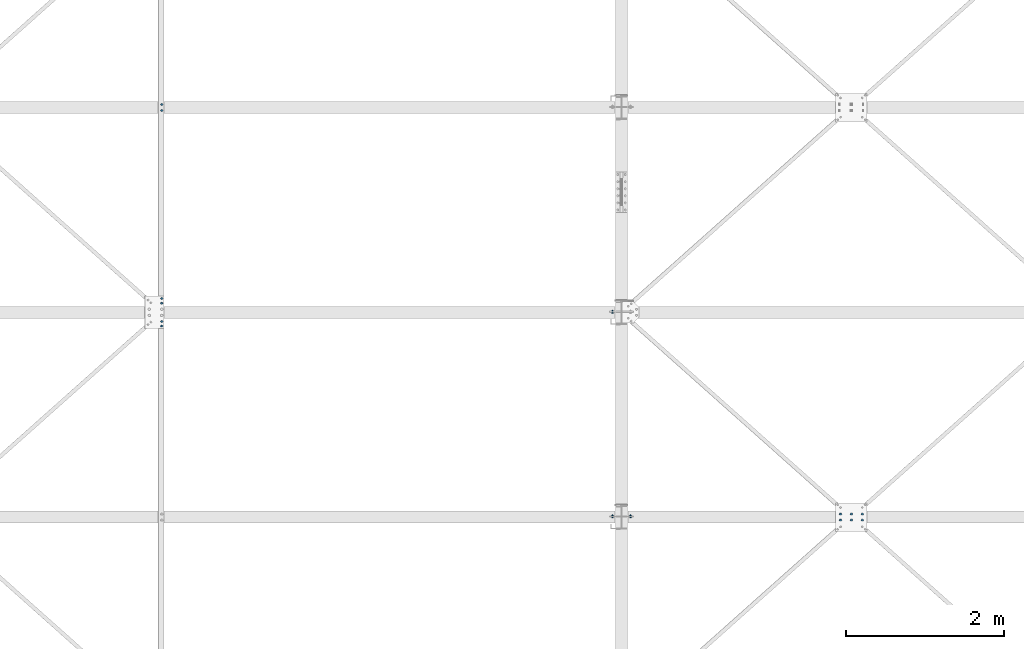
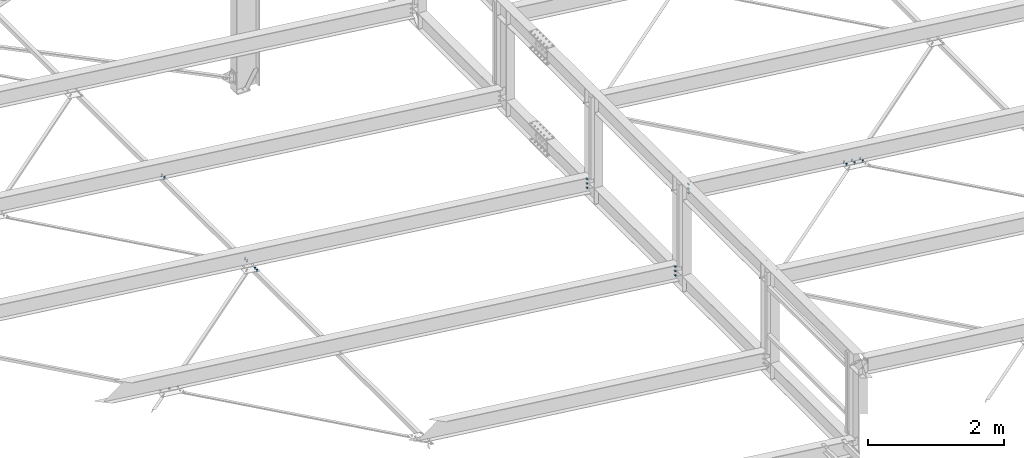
# One storey, part 287 of 3134: 7 mechanical fasteners, 5 elements without a shape of their own.
"""IFC2X3 building model written with IfcOpenShell, lengths in millimetres."""

from ifc_helpers import new_model, si_unit, frame, origin_with_axes, place, context, subcontext, project, spatial, faceted_brep, source, transform, mapped, material, type_object, element, aggregate, save


model = new_model("IFC2X3")

# Units and contexts
model_context = context("Model", 3, precision=1e-05, world=origin_with_axes())
body_context = subcontext(model_context, "Body", "Model", "MODEL_VIEW")
ifc_project = project(units=[si_unit("LENGTHUNIT", "METRE", prefix="MILLI"), si_unit("AREAUNIT", "SQUARE_METRE"), si_unit("VOLUMEUNIT", "CUBIC_METRE"), si_unit("MASSUNIT", "GRAM", prefix="KILO"), si_unit("TIMEUNIT", "SECOND"), si_unit("PLANEANGLEUNIT", "RADIAN"), si_unit("SOLIDANGLEUNIT", "STERADIAN"), si_unit("THERMODYNAMICTEMPERATUREUNIT", "DEGREE_CELSIUS"), si_unit("LUMINOUSINTENSITYUNIT", "LUMEN")], contexts=[model_context])

# Site, building, storey
site_placement = place(None, origin_with_axes())
site = spatial("IfcSite", under=ifc_project, at=site_placement, CompositionType="ELEMENT")
building_placement = place(site_placement, origin_with_axes())
building = spatial("IfcBuilding", under=site, at=building_placement, Name="Undefined", CompositionType="ELEMENT")
storey_placement = place(building_placement, origin_with_axes())
storey = spatial("IfcBuildingStorey", under=building, at=storey_placement, Name="Undefined", CompositionType="ELEMENT", Elevation=0.0)

# Assembly, mechanical fastener
assembly_1_placement = place(storey_placement, origin_with_axes())
assembly_1 = element("IfcElementAssembly", 1, at=assembly_1_placement, inside=storey, Name="300", AssemblyPlace="NOTDEFINED", PredefinedType="RIGID_FRAME")
ifc_material = material(Name="8.8")
mechanical_fastener_type = type_object("IfcMechanicalFastenerType", Name="Bolt assembly")
shared_shape_1 = source(origin_with_axes(), body_context, "Body", "Brep", [
    faceted_brep([(13.856406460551, -13.0499999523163, 0.0), (6.92820323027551, -13.0499999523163, 12.0), (-6.92820323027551, -13.0499999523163, 12.0), (-13.856406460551, -13.0499999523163, 1.69692038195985e-15), (-6.92820323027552, -13.0499999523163, -12.0), (6.9282032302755, -13.0499999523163, -12.0), (6.9282032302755, -3.04999995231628, -12.0), (-6.92820323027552, -3.04999995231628, -12.0), (-13.856406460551, -3.04999995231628, 1.69692038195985e-15), (-6.92820323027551, -3.04999995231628, 12.0), (6.92820323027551, -3.04999995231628, 12.0), (13.856406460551, -3.04999995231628, 0.0), (8.0, -3.04999995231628, 0.0), (6.92820323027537, -3.04999995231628, 4.00000000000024), (3.99999999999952, -3.04999995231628, 6.92820323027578), (-8.29068785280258e-13, -3.04999995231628, 8.0), (-4.00000000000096, -3.04999995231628, 6.92820323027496), (-6.9282032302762, -3.04999995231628, 3.99999999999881), (-8.0, -3.04999995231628, -1.65813757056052e-12), (-6.92820323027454, -3.04999995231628, -4.00000000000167), (-3.99999999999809, -3.04999995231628, -6.92820323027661), (2.47832457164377e-12, -3.04999995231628, -8.0), (4.00000000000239, -3.04999995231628, -6.92820323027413), (6.92820323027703, -3.04999995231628, -3.99999999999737), (6.92820323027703, 31.9500000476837, -3.99999999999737), (4.00000000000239, 31.9500000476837, -6.92820323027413), (2.47832457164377e-12, 31.9500000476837, -8.0), (-3.99999999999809, 31.9500000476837, -6.92820323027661), (-6.92820323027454, 31.9500000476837, -4.00000000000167), (-8.0, 31.9500000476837, -1.65813757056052e-12), (-6.9282032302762, 31.9500000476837, 3.99999999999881), (-4.00000000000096, 31.9500000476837, 6.92820323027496), (-8.29068785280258e-13, 31.9500000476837, 8.0), (3.99999999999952, 31.9500000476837, 6.92820323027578), (6.92820323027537, 31.9500000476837, 4.00000000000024), (8.0, 31.9500000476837, 0.0), (13.856406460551, 13.0500000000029, 0.0), (6.92820323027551, 13.0500000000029, 12.0), (-6.92820323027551, 13.0500000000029, 12.0), (-13.856406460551, 13.0500000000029, 1.69692038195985e-15), (-6.92820323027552, 13.0500000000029, -12.0), (6.9282032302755, 13.0500000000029, -12.0), (6.9282032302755, 26.0500000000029, -12.0), (-6.92820323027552, 26.0500000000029, -12.0), (-13.856406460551, 26.0500000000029, 1.69692038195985e-15), (-6.92820323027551, 26.0500000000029, 12.0), (6.92820323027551, 26.0500000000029, 12.0), (13.856406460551, 26.0500000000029, 0.0)], [[[0, 1, 2, 3, 4, 5]], [[6, 7, 8, 9, 10, 11]], [[0, 11, 10, 1]], [[1, 10, 9, 2]], [[2, 9, 8, 3]], [[3, 8, 7, 4]], [[4, 7, 6, 5]], [[5, 6, 11, 0]], [[12, 13, 14, 15, 16, 17, 18, 19, 20, 21, 22, 23]], [[24, 25, 26, 27, 28, 29, 30, 31, 32, 33, 34, 35]], [[12, 35, 34, 13]], [[13, 34, 33, 14]], [[14, 33, 32, 15]], [[15, 32, 31, 16]], [[16, 31, 30, 17]], [[17, 30, 29, 18]], [[18, 29, 28, 19]], [[19, 28, 27, 20]], [[20, 27, 26, 21]], [[21, 26, 25, 22]], [[22, 25, 24, 23]], [[23, 24, 35, 12]], [[36, 37, 38, 39, 40, 41]], [[42, 43, 44, 45, 46, 47]], [[36, 47, 46, 37]], [[37, 46, 45, 38]], [[38, 45, 44, 39]], [[39, 44, 43, 40]], [[40, 43, 42, 41]], [[41, 42, 47, 36]]]),
    faceted_brep([(9.0, 2.95000000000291, 0.0), (7.79422863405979, 2.95000000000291, 4.50000000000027), (4.49999999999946, 2.95000000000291, 7.79422863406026), (-9.3270238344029e-13, 2.95000000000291, 9.0), (-4.50000000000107, 2.95000000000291, 7.79422863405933), (-7.79422863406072, 2.95000000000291, 4.49999999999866), (-9.0, 2.95000000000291, -1.86540476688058e-12), (-7.79422863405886, 2.95000000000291, -4.50000000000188), (-4.49999999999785, 2.95000000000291, -7.79422863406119), (2.78811514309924e-12, 2.95000000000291, -9.0), (4.50000000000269, 2.95000000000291, -7.7942286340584), (7.79422863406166, 2.95000000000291, -4.49999999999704), (7.79422863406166, 13.0500000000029, -4.49999999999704), (4.50000000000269, 13.0500000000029, -7.7942286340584), (2.78811514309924e-12, 13.0500000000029, -9.0), (-4.49999999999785, 13.0500000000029, -7.79422863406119), (-7.79422863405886, 13.0500000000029, -4.50000000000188), (-9.0, 13.0500000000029, -1.86540476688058e-12), (-7.79422863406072, 13.0500000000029, 4.49999999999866), (-4.50000000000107, 13.0500000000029, 7.79422863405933), (-9.3270238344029e-13, 13.0500000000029, 9.0), (4.49999999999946, 13.0500000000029, 7.79422863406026), (7.79422863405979, 13.0500000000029, 4.50000000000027), (9.0, 13.0500000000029, 0.0), (9.0, -2.94999995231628, 0.0), (7.79422863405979, -2.94999995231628, 4.50000000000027), (4.49999999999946, -2.94999995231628, 7.79422863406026), (-9.3270238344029e-13, -2.94999995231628, 9.0), (-4.50000000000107, -2.94999995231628, 7.79422863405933), (-7.79422863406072, -2.94999995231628, 4.49999999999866), (-9.0, -2.94999995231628, -1.86540476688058e-12), (-7.79422863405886, -2.94999995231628, -4.50000000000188), (-4.49999999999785, -2.94999995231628, -7.79422863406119), (2.78811514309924e-12, -2.94999995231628, -9.0), (4.50000000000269, -2.94999995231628, -7.7942286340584), (7.79422863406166, -2.94999995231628, -4.49999999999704), (7.79422863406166, 3.14999995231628, -4.49999999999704), (4.50000000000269, 3.14999995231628, -7.7942286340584), (2.78811514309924e-12, 3.14999995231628, -9.0), (-4.49999999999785, 3.14999995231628, -7.79422863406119), (-7.79422863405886, 3.14999995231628, -4.50000000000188), (-9.0, 3.14999995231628, -1.86540476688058e-12), (-7.79422863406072, 3.14999995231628, 4.49999999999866), (-4.50000000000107, 3.14999995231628, 7.79422863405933), (-9.3270238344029e-13, 3.14999995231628, 9.0), (4.49999999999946, 3.14999995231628, 7.79422863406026), (7.79422863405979, 3.14999995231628, 4.50000000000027), (9.0, 3.14999995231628, 0.0)], [[[0, 1, 2, 3, 4, 5, 6, 7, 8, 9, 10, 11]], [[12, 13, 14, 15, 16, 17, 18, 19, 20, 21, 22, 23]], [[0, 23, 22, 1]], [[1, 22, 21, 2]], [[2, 21, 20, 3]], [[3, 20, 19, 4]], [[4, 19, 18, 5]], [[5, 18, 17, 6]], [[6, 17, 16, 7]], [[7, 16, 15, 8]], [[8, 15, 14, 9]], [[9, 14, 13, 10]], [[10, 13, 12, 11]], [[11, 12, 23, 0]], [[24, 25, 26, 27, 28, 29, 30, 31, 32, 33, 34, 35]], [[36, 37, 38, 39, 40, 41, 42, 43, 44, 45, 46, 47]], [[24, 47, 46, 25]], [[25, 46, 45, 26]], [[26, 45, 44, 27]], [[27, 44, 43, 28]], [[28, 43, 42, 29]], [[29, 42, 41, 30]], [[30, 41, 40, 31]], [[31, 40, 39, 32]], [[32, 39, 38, 33]], [[33, 38, 37, 34]], [[34, 37, 36, 35]], [[35, 36, 47, 24]]]),
])
mechanical_fastener_1_placement = place(assembly_1_placement, frame((55760.0, 50650.0, 4337.44269270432), z_axis=(1.0, 0.0, 0.0), x_axis=(0.0, 0.0, -1.0)))
mechanical_fastener_1 = element("IfcMechanicalFastener", 2, at=mechanical_fastener_1_placement, type_object=mechanical_fastener_type, material=ifc_material, Name="Bolt assembly", NominalDiameter=16.0, NominalLength=35.0, context=body_context, shape_type="MappedRepresentation", body=[
    mapped(shared_shape_1, transform((0.0, 0.0, 0.0))),
    mapped(shared_shape_1, transform((80.0, 0.0, 0.0))),
    mapped(shared_shape_1, transform((160.0, 0.0, 0.0))),
])
aggregate(assembly_1, [mechanical_fastener_1])

assembly_2_placement = place(storey_placement, origin_with_axes())
assembly_2 = element("IfcElementAssembly", 3, at=assembly_2_placement, inside=storey, Name="300", AssemblyPlace="NOTDEFINED", PredefinedType="RIGID_FRAME")
mechanical_fastener_2_placement = place(assembly_2_placement, frame((55760.0, 48050.0, 4337.44269270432), z_axis=(1.0, 0.0, 0.0), x_axis=(0.0, 0.0, -1.0)))
mechanical_fastener_2 = element("IfcMechanicalFastener", 4, at=mechanical_fastener_2_placement, type_object=mechanical_fastener_type, material=ifc_material, Name="Bolt assembly", NominalDiameter=16.0, NominalLength=35.0, context=body_context, shape_type="MappedRepresentation", body=[
    mapped(shared_shape_1, transform((0.0, 0.0, 0.0))),
    mapped(shared_shape_1, transform((80.0, 0.0, 0.0))),
    mapped(shared_shape_1, transform((160.0, 0.0, 0.0))),
])
aggregate(assembly_2, [mechanical_fastener_2])

assembly_3_placement = place(storey_placement, origin_with_axes())
assembly_3 = element("IfcElementAssembly", 5, at=assembly_3_placement, inside=storey, Name="300", AssemblyPlace="NOTDEFINED", PredefinedType="RIGID_FRAME")
mechanical_fastener_3_placement = place(assembly_3_placement, frame((55990.0, 48050.0, 5735.35014950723), z_axis=(1.0, 0.0, 0.0), x_axis=(0.0, 0.0, -1.0)))
mechanical_fastener_3 = element("IfcMechanicalFastener", 6, at=mechanical_fastener_3_placement, type_object=mechanical_fastener_type, material=ifc_material, Name="Bolt assembly", NominalDiameter=16.0, NominalLength=35.0, context=body_context, shape_type="MappedRepresentation", body=[
    mapped(shared_shape_1, transform((0.0, 0.0, 0.0))),
    mapped(shared_shape_1, transform((80.0, 0.0, 0.0))),
    mapped(shared_shape_1, transform((160.0, 0.0, 0.0))),
])

assembly_4_placement = place(storey_placement, origin_with_axes())
assembly_4 = element("IfcElementAssembly", 7, at=assembly_4_placement, inside=storey, AssemblyPlace="NOTDEFINED", PredefinedType="RIGID_FRAME")
shared_shape_2 = source(origin_with_axes(), body_context, "Body", "Brep", [
    faceted_brep([(13.856406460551, -19.199990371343, 0.0), (6.92820323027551, -19.199990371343, 12.0), (-6.92820323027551, -19.199990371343, 12.0), (-13.856406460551, -19.199990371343, 1.69692038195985e-15), (-6.92820323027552, -19.199990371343, -12.0), (6.9282032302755, -19.199990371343, -12.0), (6.9282032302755, -9.19999037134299, -12.0), (-6.92820323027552, -9.19999037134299, -12.0), (-13.856406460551, -9.19999037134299, 1.69692038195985e-15), (-6.92820323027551, -9.19999037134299, 12.0), (6.92820323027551, -9.19999037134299, 12.0), (13.856406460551, -9.19999037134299, 0.0), (8.0, -9.19999037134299, 0.0), (6.92820323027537, -9.19999037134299, 4.00000000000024), (3.99999999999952, -9.19999037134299, 6.92820323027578), (-8.29068785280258e-13, -9.19999037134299, 8.0), (-4.00000000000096, -9.19999037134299, 6.92820323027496), (-6.9282032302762, -9.19999037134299, 3.99999999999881), (-8.0, -9.19999037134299, -1.65813757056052e-12), (-6.92820323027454, -9.19999037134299, -4.00000000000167), (-3.99999999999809, -9.19999037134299, -6.92820323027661), (2.47832457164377e-12, -9.19999037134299, -8.0), (4.00000000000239, -9.19999037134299, -6.92820323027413), (6.92820323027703, -9.19999037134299, -3.99999999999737), (6.92820323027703, 35.8000002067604, -3.99999999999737), (4.00000000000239, 35.8000002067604, -6.92820323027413), (2.47832457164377e-12, 35.8000002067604, -8.0), (-3.99999999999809, 35.8000002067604, -6.92820323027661), (-6.92820323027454, 35.8000002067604, -4.00000000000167), (-8.0, 35.8000002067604, -1.65813757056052e-12), (-6.9282032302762, 35.8000002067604, 3.99999999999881), (-4.00000000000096, 35.8000002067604, 6.92820323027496), (-8.29068785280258e-13, 35.8000002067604, 8.0), (3.99999999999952, 35.8000002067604, 6.92820323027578), (6.92820323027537, 35.8000002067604, 4.00000000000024), (8.0, 35.8000002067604, 0.0), (13.856406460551, 14.9999995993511, 0.0), (6.92820323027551, 14.9999995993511, 12.0), (-6.92820323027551, 14.9999995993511, 12.0), (-13.856406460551, 14.9999995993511, 1.69692038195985e-15), (-6.92820323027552, 14.9999995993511, -12.0), (6.9282032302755, 14.9999995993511, -12.0), (6.9282032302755, 27.9999995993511, -12.0), (-6.92820323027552, 27.9999995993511, -12.0), (-13.856406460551, 27.9999995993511, 1.69692038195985e-15), (-6.92820323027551, 27.9999995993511, 12.0), (6.92820323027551, 27.9999995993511, 12.0), (13.856406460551, 27.9999995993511, 0.0)], [[[0, 1, 2, 3, 4, 5]], [[6, 7, 8, 9, 10, 11]], [[0, 11, 10, 1]], [[1, 10, 9, 2]], [[2, 9, 8, 3]], [[3, 8, 7, 4]], [[4, 7, 6, 5]], [[5, 6, 11, 0]], [[12, 13, 14, 15, 16, 17, 18, 19, 20, 21, 22, 23]], [[24, 25, 26, 27, 28, 29, 30, 31, 32, 33, 34, 35]], [[12, 35, 34, 13]], [[13, 34, 33, 14]], [[14, 33, 32, 15]], [[15, 32, 31, 16]], [[16, 31, 30, 17]], [[17, 30, 29, 18]], [[18, 29, 28, 19]], [[19, 28, 27, 20]], [[20, 27, 26, 21]], [[21, 26, 25, 22]], [[22, 25, 24, 23]], [[23, 24, 35, 12]], [[36, 37, 38, 39, 40, 41]], [[42, 43, 44, 45, 46, 47]], [[36, 47, 46, 37]], [[37, 46, 45, 38]], [[38, 45, 44, 39]], [[39, 44, 43, 40]], [[40, 43, 42, 41]], [[41, 42, 47, 36]]]),
    faceted_brep([(9.0, -9.09999037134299, 0.0), (7.79422863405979, -9.09999037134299, 4.50000000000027), (4.49999999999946, -9.09999037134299, 7.79422863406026), (-9.3270238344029e-13, -9.09999037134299, 9.0), (-4.50000000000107, -9.09999037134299, 7.79422863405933), (-7.79422863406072, -9.09999037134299, 4.49999999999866), (-9.0, -9.09999037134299, -1.86540476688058e-12), (-7.79422863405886, -9.09999037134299, -4.50000000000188), (-4.49999999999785, -9.09999037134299, -7.79422863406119), (2.78811514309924e-12, -9.09999037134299, -9.0), (4.50000000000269, -9.09999037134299, -7.7942286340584), (7.79422863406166, -9.09999037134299, -4.49999999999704), (7.79422863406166, 0.100000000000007, -4.49999999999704), (4.50000000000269, 0.100000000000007, -7.7942286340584), (2.78811514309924e-12, 0.100000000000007, -9.0), (-4.49999999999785, 0.100000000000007, -7.79422863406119), (-7.79422863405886, 0.100000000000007, -4.50000000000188), (-9.0, 0.100000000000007, -1.86540476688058e-12), (-7.79422863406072, 0.100000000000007, 4.49999999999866), (-4.50000000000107, 0.100000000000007, 7.79422863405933), (-9.3270238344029e-13, 0.100000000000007, 9.0), (4.49999999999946, 0.100000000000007, 7.79422863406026), (7.79422863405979, 0.100000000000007, 4.50000000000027), (9.0, 0.100000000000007, 0.0), (9.0, 7.9, 0.0), (7.79422863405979, 7.9, 4.50000000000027), (4.49999999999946, 7.9, 7.79422863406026), (-9.3270238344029e-13, 7.9, 9.0), (-4.50000000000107, 7.9, 7.79422863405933), (-7.79422863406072, 7.9, 4.49999999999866), (-9.0, 7.9, -1.86540476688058e-12), (-7.79422863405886, 7.9, -4.50000000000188), (-4.49999999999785, 7.9, -7.79422863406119), (2.78811514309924e-12, 7.9, -9.0), (4.50000000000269, 7.9, -7.7942286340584), (7.79422863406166, 7.9, -4.49999999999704), (7.79422863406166, 14.9999995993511, -4.49999999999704), (4.50000000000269, 14.9999995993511, -7.7942286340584), (2.78811514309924e-12, 14.9999995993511, -9.0), (-4.49999999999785, 14.9999995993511, -7.79422863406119), (-7.79422863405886, 14.9999995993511, -4.50000000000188), (-9.0, 14.9999995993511, -1.86540476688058e-12), (-7.79422863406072, 14.9999995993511, 4.49999999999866), (-4.50000000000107, 14.9999995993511, 7.79422863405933), (-9.3270238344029e-13, 14.9999995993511, 9.0), (4.49999999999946, 14.9999995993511, 7.79422863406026), (7.79422863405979, 14.9999995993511, 4.50000000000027), (9.0, 14.9999995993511, 0.0)], [[[0, 1, 2, 3, 4, 5, 6, 7, 8, 9, 10, 11]], [[12, 13, 14, 15, 16, 17, 18, 19, 20, 21, 22, 23]], [[0, 23, 22, 1]], [[1, 22, 21, 2]], [[2, 21, 20, 3]], [[3, 20, 19, 4]], [[4, 19, 18, 5]], [[5, 18, 17, 6]], [[6, 17, 16, 7]], [[7, 16, 15, 8]], [[8, 15, 14, 9]], [[9, 14, 13, 10]], [[10, 13, 12, 11]], [[11, 12, 23, 0]], [[24, 25, 26, 27, 28, 29, 30, 31, 32, 33, 34, 35]], [[36, 37, 38, 39, 40, 41, 42, 43, 44, 45, 46, 47]], [[24, 47, 46, 25]], [[25, 46, 45, 26]], [[26, 45, 44, 27]], [[27, 44, 43, 28]], [[28, 43, 42, 29]], [[29, 42, 41, 30]], [[30, 41, 40, 31]], [[31, 40, 39, 32]], [[32, 39, 38, 33]], [[33, 38, 37, 34]], [[34, 37, 36, 35]], [[35, 36, 47, 24]]]),
])
mechanical_fastener_4_placement = place(assembly_4_placement, frame((50037.9849612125, 53212.0, 4806.73358922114), z_axis=(-0.992623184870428, 0.0, 0.121240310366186), x_axis=(0.0, 1.0, 0.0)))
mechanical_fastener_4 = element("IfcMechanicalFastener", 8, at=mechanical_fastener_4_placement, type_object=mechanical_fastener_type, material=ifc_material, Name="Bolt assembly", NominalDiameter=16.0, NominalLength=45.0, context=body_context, shape_type="MappedRepresentation", body=[
    mapped(shared_shape_2, transform((0.0, 0.0, 0.0))),
    mapped(shared_shape_2, transform((76.0, 0.0, 0.0))),
])
aggregate(assembly_4, [mechanical_fastener_4])

# Assembly, mechanical fasteners
assembly_5_placement = place(storey_placement, origin_with_axes())
assembly_5 = element("IfcElementAssembly", 9, at=assembly_5_placement, inside=storey, Name="PL8", AssemblyPlace="NOTDEFINED", PredefinedType="RIGID_FRAME")
shared_shape_3 = source(origin_with_axes(), body_context, "Body", "Brep", [
    faceted_brep([(13.856406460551, -10.0, 0.0), (6.92820323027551, -10.0, 12.0), (-6.92820323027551, -10.0, 12.0), (-13.856406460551, -10.0, 1.69692038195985e-15), (-6.92820323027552, -10.0, -12.0), (6.9282032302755, -10.0, -12.0), (6.9282032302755, 0.0, -12.0), (-6.92820323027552, 0.0, -12.0), (-13.856406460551, 0.0, 1.69692038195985e-15), (-6.92820323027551, 0.0, 12.0), (6.92820323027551, 0.0, 12.0), (13.856406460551, 0.0, 0.0), (8.0, 0.0, 0.0), (6.92820323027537, 0.0, 4.00000000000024), (3.99999999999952, 0.0, 6.92820323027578), (-8.29068785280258e-13, 0.0, 8.0), (-4.00000000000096, 0.0, 6.92820323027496), (-6.9282032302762, 0.0, 3.99999999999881), (-8.0, 0.0, -1.65813757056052e-12), (-6.92820323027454, 0.0, -4.00000000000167), (-3.99999999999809, 0.0, -6.92820323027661), (2.47832457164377e-12, 0.0, -8.0), (4.00000000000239, 0.0, -6.92820323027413), (6.92820323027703, 0.0, -3.99999999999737), (6.92820323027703, 35.0000000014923, -3.99999999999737), (4.00000000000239, 35.0000000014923, -6.92820323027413), (2.47832457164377e-12, 35.0000000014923, -8.0), (-3.99999999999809, 35.0000000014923, -6.92820323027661), (-6.92820323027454, 35.0000000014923, -4.00000000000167), (-8.0, 35.0000000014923, -1.65813757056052e-12), (-6.9282032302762, 35.0000000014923, 3.99999999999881), (-4.00000000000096, 35.0000000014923, 6.92820323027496), (-8.29068785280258e-13, 35.0000000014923, 8.0), (3.99999999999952, 35.0000000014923, 6.92820323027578), (6.92820323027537, 35.0000000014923, 4.00000000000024), (8.0, 35.0000000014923, 0.0), (13.856406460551, 14.9999995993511, 0.0), (6.92820323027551, 14.9999995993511, 12.0), (-6.92820323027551, 14.9999995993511, 12.0), (-13.856406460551, 14.9999995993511, 1.69692038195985e-15), (-6.92820323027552, 14.9999995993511, -12.0), (6.9282032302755, 14.9999995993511, -12.0), (6.9282032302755, 27.9999995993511, -12.0), (-6.92820323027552, 27.9999995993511, -12.0), (-13.856406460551, 27.9999995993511, 1.69692038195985e-15), (-6.92820323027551, 27.9999995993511, 12.0), (6.92820323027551, 27.9999995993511, 12.0), (13.856406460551, 27.9999995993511, 0.0)], [[[0, 1, 2, 3, 4, 5]], [[6, 7, 8, 9, 10, 11]], [[0, 11, 10, 1]], [[1, 10, 9, 2]], [[2, 9, 8, 3]], [[3, 8, 7, 4]], [[4, 7, 6, 5]], [[5, 6, 11, 0]], [[12, 13, 14, 15, 16, 17, 18, 19, 20, 21, 22, 23]], [[24, 25, 26, 27, 28, 29, 30, 31, 32, 33, 34, 35]], [[12, 35, 34, 13]], [[13, 34, 33, 14]], [[14, 33, 32, 15]], [[15, 32, 31, 16]], [[16, 31, 30, 17]], [[17, 30, 29, 18]], [[18, 29, 28, 19]], [[19, 28, 27, 20]], [[20, 27, 26, 21]], [[21, 26, 25, 22]], [[22, 25, 24, 23]], [[23, 24, 35, 12]], [[36, 37, 38, 39, 40, 41]], [[42, 43, 44, 45, 46, 47]], [[36, 47, 46, 37]], [[37, 46, 45, 38]], [[38, 45, 44, 39]], [[39, 44, 43, 40]], [[40, 43, 42, 41]], [[41, 42, 47, 36]]]),
    faceted_brep([(9.0, 7.9, 0.0), (7.79422863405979, 7.9, 4.50000000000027), (4.49999999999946, 7.9, 7.79422863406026), (-9.3270238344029e-13, 7.9, 9.0), (-4.50000000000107, 7.9, 7.79422863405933), (-7.79422863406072, 7.9, 4.49999999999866), (-9.0, 7.9, -1.86540476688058e-12), (-7.79422863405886, 7.9, -4.50000000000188), (-4.49999999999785, 7.9, -7.79422863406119), (2.78811514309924e-12, 7.9, -9.0), (4.50000000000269, 7.9, -7.7942286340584), (7.79422863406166, 7.9, -4.49999999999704), (7.79422863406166, 14.9999995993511, -4.49999999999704), (4.50000000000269, 14.9999995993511, -7.7942286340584), (2.78811514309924e-12, 14.9999995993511, -9.0), (-4.49999999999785, 14.9999995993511, -7.79422863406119), (-7.79422863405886, 14.9999995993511, -4.50000000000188), (-9.0, 14.9999995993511, -1.86540476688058e-12), (-7.79422863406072, 14.9999995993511, 4.49999999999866), (-4.50000000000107, 14.9999995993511, 7.79422863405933), (-9.3270238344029e-13, 14.9999995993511, 9.0), (4.49999999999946, 14.9999995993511, 7.79422863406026), (7.79422863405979, 14.9999995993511, 4.50000000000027), (9.0, 14.9999995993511, 0.0), (9.0, 0.100000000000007, 0.0), (7.79422863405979, 0.100000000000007, 4.50000000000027), (4.49999999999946, 0.100000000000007, 7.79422863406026), (-9.3270238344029e-13, 0.100000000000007, 9.0), (-4.50000000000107, 0.100000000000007, 7.79422863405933), (-7.79422863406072, 0.100000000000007, 4.49999999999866), (-9.0, 0.100000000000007, -1.86540476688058e-12), (-7.79422863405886, 0.100000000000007, -4.50000000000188), (-4.49999999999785, 0.100000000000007, -7.79422863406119), (2.78811514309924e-12, 0.100000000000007, -9.0), (4.50000000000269, 0.100000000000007, -7.7942286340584), (7.79422863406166, 0.100000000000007, -4.49999999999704), (7.79422863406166, 8.1, -4.49999999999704), (4.50000000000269, 8.1, -7.7942286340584), (2.78811514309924e-12, 8.1, -9.0), (-4.49999999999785, 8.1, -7.79422863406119), (-7.79422863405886, 8.1, -4.50000000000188), (-9.0, 8.1, -1.86540476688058e-12), (-7.79422863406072, 8.1, 4.49999999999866), (-4.50000000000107, 8.1, 7.79422863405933), (-9.3270238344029e-13, 8.1, 9.0), (4.49999999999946, 8.1, 7.79422863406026), (7.79422863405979, 8.1, 4.50000000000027), (9.0, 8.1, 0.0)], [[[0, 1, 2, 3, 4, 5, 6, 7, 8, 9, 10, 11]], [[12, 13, 14, 15, 16, 17, 18, 19, 20, 21, 22, 23]], [[0, 23, 22, 1]], [[1, 22, 21, 2]], [[2, 21, 20, 3]], [[3, 20, 19, 4]], [[4, 19, 18, 5]], [[5, 18, 17, 6]], [[6, 17, 16, 7]], [[7, 16, 15, 8]], [[8, 15, 14, 9]], [[9, 14, 13, 10]], [[10, 13, 12, 11]], [[11, 12, 23, 0]], [[24, 25, 26, 27, 28, 29, 30, 31, 32, 33, 34, 35]], [[36, 37, 38, 39, 40, 41, 42, 43, 44, 45, 46, 47]], [[24, 47, 46, 25]], [[25, 46, 45, 26]], [[26, 45, 44, 27]], [[27, 44, 43, 28]], [[28, 43, 42, 29]], [[29, 42, 41, 30]], [[30, 41, 40, 31]], [[31, 40, 39, 32]], [[32, 39, 38, 33]], [[33, 38, 37, 34]], [[34, 37, 36, 35]], [[35, 36, 47, 24]]]),
])
mechanical_fastener_5_placement = place(assembly_5_placement, frame((50037.9849612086, 50825.0, 4806.73358922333), z_axis=(0.992623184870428, 0.0, -0.121240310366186), x_axis=(0.0, -1.0, 0.0)))
mechanical_fastener_5 = element("IfcMechanicalFastener", 10, at=mechanical_fastener_5_placement, type_object=mechanical_fastener_type, material=ifc_material, Name="Bolt assembly", NominalDiameter=16.0, NominalLength=35.0, context=body_context, shape_type="MappedRepresentation", body=[
    mapped(shared_shape_3, transform((0.0, 0.0, 0.0))),
    mapped(shared_shape_3, transform((59.9999999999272, 0.0, 5.40239852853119e-10))),
])
mechanical_fastener_6_placement = place(assembly_5_placement, frame((50037.9849612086, 50535.0, 4806.73358922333), z_axis=(0.992623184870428, 0.0, -0.121240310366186), x_axis=(0.0, -1.0, 0.0)))
mechanical_fastener_6 = element("IfcMechanicalFastener", 11, at=mechanical_fastener_6_placement, type_object=mechanical_fastener_type, material=ifc_material, Name="Bolt assembly", NominalDiameter=16.0, NominalLength=35.0, context=body_context, shape_type="MappedRepresentation", body=[
    mapped(shared_shape_3, transform((0.0, 0.0, 0.0))),
    mapped(shared_shape_3, transform((59.9999999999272, 0.0, 5.40239852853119e-10))),
])
aggregate(assembly_5, [mechanical_fastener_5, mechanical_fastener_6])

# Mechanical fastener
shared_shape_4 = source(origin_with_axes(), body_context, "Body", "Brep", [
    faceted_brep([(10.9696551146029, -17.1999998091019, 0.0), (5.48482755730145, -17.1999998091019, 9.5), (-5.48482755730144, -17.1999998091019, 9.5), (-10.9696551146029, -17.1999998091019, 1.34339530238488e-15), (-5.48482755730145, -17.1999998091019, -9.5), (5.48482755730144, -17.1999998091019, -9.50000000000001), (5.48482755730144, -9.19999978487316, -9.50000000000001), (-5.48482755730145, -9.19999978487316, -9.5), (-10.9696551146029, -9.19999978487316, 1.34339530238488e-15), (-5.48482755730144, -9.19999978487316, 9.5), (5.48482755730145, -9.19999978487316, 9.5), (10.9696551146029, -9.19999978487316, 0.0), (6.0, -9.19999978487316, 0.0), (5.19615242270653, -9.19999978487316, 3.00000000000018), (2.99999999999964, -9.19999978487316, 5.19615242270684), (-6.21801588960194e-13, -9.19999978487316, 6.0), (-3.00000000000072, -9.19999978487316, 5.19615242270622), (-5.19615242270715, -9.19999978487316, 2.9999999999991), (-6.0, -9.19999978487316, -1.24360317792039e-12), (-5.19615242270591, -9.19999978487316, -3.00000000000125), (-2.99999999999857, -9.19999978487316, -5.19615242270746), (1.85874342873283e-12, -9.19999978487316, -6.0), (3.00000000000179, -9.19999978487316, -5.1961524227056), (5.19615242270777, -9.19999978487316, -2.99999999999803), (5.19615242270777, 25.8000002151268, -2.99999999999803), (3.00000000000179, 25.8000002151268, -5.1961524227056), (1.85874342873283e-12, 25.8000002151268, -6.0), (-2.99999999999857, 25.8000002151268, -5.19615242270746), (-5.19615242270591, 25.8000002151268, -3.00000000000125), (-6.0, 25.8000002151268, -1.24360317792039e-12), (-5.19615242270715, 25.8000002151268, 2.9999999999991), (-3.00000000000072, 25.8000002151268, 5.19615242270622), (-6.21801588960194e-13, 25.8000002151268, 6.0), (2.99999999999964, 25.8000002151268, 5.19615242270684), (5.19615242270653, 25.8000002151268, 3.00000000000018), (6.0, 25.8000002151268, 0.0), (10.9696551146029, 8.0, 0.0), (5.48482755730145, 8.0, 9.5), (-5.48482755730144, 8.0, 9.5), (-10.9696551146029, 8.0, 1.34339530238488e-15), (-5.48482755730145, 8.0, -9.5), (5.48482755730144, 8.0, -9.50000000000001), (5.48482755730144, 18.0, -9.50000000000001), (-5.48482755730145, 18.0, -9.5), (-10.9696551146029, 18.0, 1.34339530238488e-15), (-5.48482755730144, 18.0, 9.5), (5.48482755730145, 18.0, 9.5), (10.9696551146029, 18.0, 0.0)], [[[0, 1, 2, 3, 4, 5]], [[6, 7, 8, 9, 10, 11]], [[0, 11, 10, 1]], [[1, 10, 9, 2]], [[2, 9, 8, 3]], [[3, 8, 7, 4]], [[4, 7, 6, 5]], [[5, 6, 11, 0]], [[12, 13, 14, 15, 16, 17, 18, 19, 20, 21, 22, 23]], [[24, 25, 26, 27, 28, 29, 30, 31, 32, 33, 34, 35]], [[12, 35, 34, 13]], [[13, 34, 33, 14]], [[14, 33, 32, 15]], [[15, 32, 31, 16]], [[16, 31, 30, 17]], [[17, 30, 29, 18]], [[18, 29, 28, 19]], [[19, 28, 27, 20]], [[20, 27, 26, 21]], [[21, 26, 25, 22]], [[22, 25, 24, 23]], [[23, 24, 35, 12]], [[36, 37, 38, 39, 40, 41]], [[42, 43, 44, 45, 46, 47]], [[36, 47, 46, 37]], [[37, 46, 45, 38]], [[38, 45, 44, 39]], [[39, 44, 43, 40]], [[40, 43, 42, 41]], [[41, 42, 47, 36]]]),
    faceted_brep([(7.0, -0.1, 0.0), (6.06217782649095, -0.1, 3.50000000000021), (3.49999999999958, -0.1, 6.06217782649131), (-7.25435187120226e-13, -0.1, 7.0), (-3.50000000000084, -0.1, 6.06217782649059), (-6.06217782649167, -0.1, 3.49999999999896), (-7.0, -0.1, -1.45087037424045e-12), (-6.06217782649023, -0.1, -3.50000000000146), (-3.49999999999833, -0.1, -6.06217782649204), (2.1685340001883e-12, -0.1, -7.0), (3.50000000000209, -0.1, -6.06217782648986), (6.0621778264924, -0.1, -3.4999999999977), (6.0621778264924, 8.0000000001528, -3.4999999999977), (3.50000000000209, 8.0000000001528, -6.06217782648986), (2.1685340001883e-12, 8.0000000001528, -7.0), (-3.49999999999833, 8.0000000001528, -6.06217782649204), (-6.06217782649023, 8.0000000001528, -3.50000000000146), (-7.0, 8.0000000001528, -1.45087037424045e-12), (-6.06217782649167, 8.0000000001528, 3.49999999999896), (-3.50000000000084, 8.0000000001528, 6.06217782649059), (-7.25435187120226e-13, 8.0000000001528, 7.0), (3.49999999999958, 8.0000000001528, 6.06217782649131), (6.06217782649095, 8.0000000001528, 3.50000000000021), (7.0, 8.0000000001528, 0.0), (7.0, -9.09999980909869, 0.0), (6.06217782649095, -9.09999980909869, 3.50000000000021), (3.49999999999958, -9.09999980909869, 6.06217782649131), (-7.25435187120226e-13, -9.09999980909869, 7.0), (-3.50000000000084, -9.09999980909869, 6.06217782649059), (-6.06217782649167, -9.09999980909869, 3.49999999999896), (-7.0, -9.09999980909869, -1.45087037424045e-12), (-6.06217782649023, -9.09999980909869, -3.50000000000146), (-3.49999999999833, -9.09999980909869, -6.06217782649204), (2.1685340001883e-12, -9.09999980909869, -7.0), (3.50000000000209, -9.09999980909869, -6.06217782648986), (6.0621778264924, -9.09999980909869, -3.4999999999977), (6.0621778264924, 0.0999999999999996, -3.4999999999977), (3.50000000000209, 0.0999999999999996, -6.06217782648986), (2.1685340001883e-12, 0.0999999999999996, -7.0), (-3.49999999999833, 0.0999999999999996, -6.06217782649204), (-6.06217782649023, 0.0999999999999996, -3.50000000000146), (-7.0, 0.0999999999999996, -1.45087037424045e-12), (-6.06217782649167, 0.0999999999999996, 3.49999999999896), (-3.50000000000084, 0.0999999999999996, 6.06217782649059), (-7.25435187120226e-13, 0.0999999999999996, 7.0), (3.49999999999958, 0.0999999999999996, 6.06217782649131), (6.06217782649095, 0.0999999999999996, 3.50000000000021), (7.0, 0.0999999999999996, 0.0)], [[[0, 1, 2, 3, 4, 5, 6, 7, 8, 9, 10, 11]], [[12, 13, 14, 15, 16, 17, 18, 19, 20, 21, 22, 23]], [[0, 23, 22, 1]], [[1, 22, 21, 2]], [[2, 21, 20, 3]], [[3, 20, 19, 4]], [[4, 19, 18, 5]], [[5, 18, 17, 6]], [[6, 17, 16, 7]], [[7, 16, 15, 8]], [[8, 15, 14, 9]], [[9, 14, 13, 10]], [[10, 13, 12, 11]], [[11, 12, 23, 0]], [[24, 25, 26, 27, 28, 29, 30, 31, 32, 33, 34, 35]], [[36, 37, 38, 39, 40, 41, 42, 43, 44, 45, 46, 47]], [[24, 47, 46, 25]], [[25, 46, 45, 26]], [[26, 45, 44, 27]], [[27, 44, 43, 28]], [[28, 43, 42, 29]], [[29, 42, 41, 30]], [[30, 41, 40, 31]], [[31, 40, 39, 32]], [[32, 39, 38, 33]], [[33, 38, 37, 34]], [[34, 37, 36, 35]], [[35, 36, 47, 24]]]),
])
mechanical_fastener_7_placement = place(assembly_3_placement, frame((58933.2022067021, 48050.0, 5146.25993625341), z_axis=(0.0, -1.0, 0.0), x_axis=(-0.992623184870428, 0.0, 0.121240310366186)))
mechanical_fastener_7 = element("IfcMechanicalFastener", 12, at=mechanical_fastener_7_placement, type_object=mechanical_fastener_type, material=ifc_material, Name="Bolt assembly", NominalDiameter=12.0, NominalLength=35.0, context=body_context, shape_type="MappedRepresentation", body=[
    mapped(shared_shape_4, transform((0.0, 0.0, -38.0))),
    mapped(shared_shape_4, transform((140.000000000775, 5.85714587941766e-10, -38.0))),
    mapped(shared_shape_4, transform((279.999999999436, -4.74756234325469e-10, -38.0))),
    mapped(shared_shape_4, transform((0.0, 0.0, 38.0))),
    mapped(shared_shape_4, transform((140.000000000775, 5.85714587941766e-10, 38.0))),
    mapped(shared_shape_4, transform((279.999999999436, -4.74756234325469e-10, 38.0))),
])

aggregate(assembly_3, [mechanical_fastener_7, mechanical_fastener_3])

save(model, "model.ifc")
